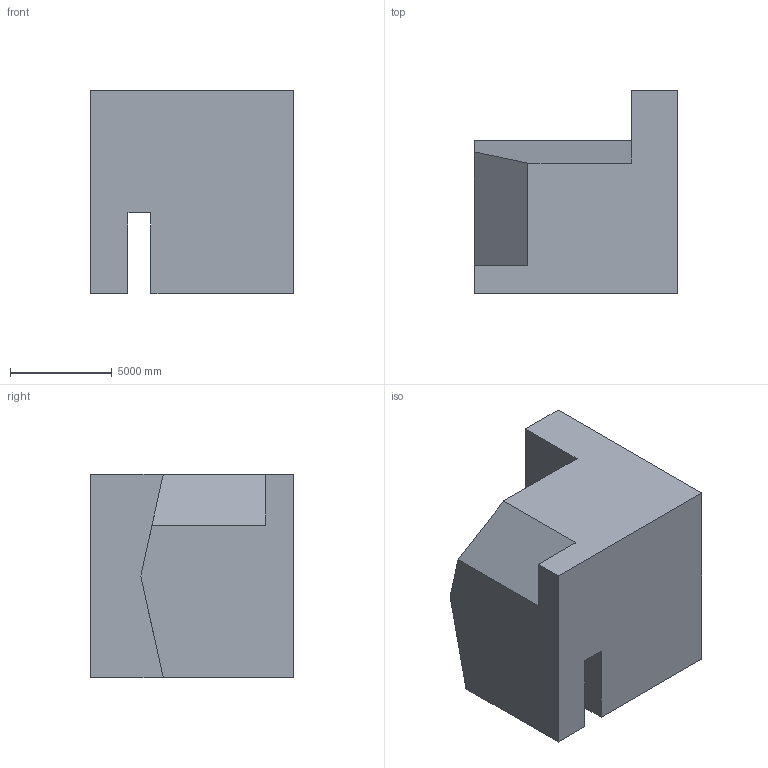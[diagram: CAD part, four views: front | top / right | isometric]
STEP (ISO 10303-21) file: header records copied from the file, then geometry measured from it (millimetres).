
FILE_DESCRIPTION (( 'STEP AP203' ), '1' );
FILE_NAME ('1275.STEP', '2022-08-18T13:30:57', ( 'user' ), ( '' ), 'SwSTEP 2.0', 'SolidWorks 2021', '' );
FILE_SCHEMA (( 'CONFIG_CONTROL_DESIGN' ));
Length unit declared in the file: centimetre
Products named in the file (1): 1275
Bounding box: 10000 x 10000 x 10000 mm (x, y, z)
Volume: 717614246474.4 mm3; surface area: 585475648 mm2
Topology: 1 solids, 1 shells, 15 faces, 39 edges, 26 vertices
Faces by surface type: plane 15
Entity records: 530 total; most frequent: CARTESIAN_POINT 81, ORIENTED_EDGE 78, DIRECTION 71, VECTOR 39, LINE 39, EDGE_CURVE 39, VERTEX_POINT 26, AXIS2_PLACEMENT_3D 16
